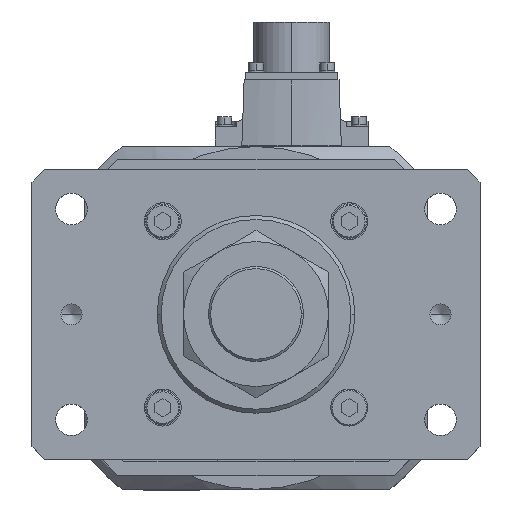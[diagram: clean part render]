
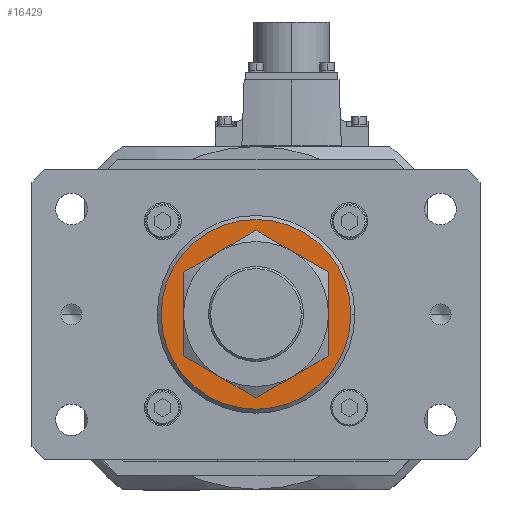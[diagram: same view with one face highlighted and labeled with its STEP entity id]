
A CAD part, top view. The second image highlights one B-rep face of the part: STEP entity #16429.
In plain terms, the highlighted planar face has unit normal (0, 0, 1).
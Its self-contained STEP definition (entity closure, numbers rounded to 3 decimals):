
#882 = DIRECTION ( 'NONE',  ( 1., 0., 0. ) ) ;
#1013 = CIRCLE ( 'NONE', #3275, 23. ) ;
#1128 = FACE_OUTER_BOUND ( 'NONE', #14332, .T. ) ;
#3275 = AXIS2_PLACEMENT_3D ( 'NONE', #36242, #33884, #16411 ) ;
#4531 = CIRCLE ( 'NONE', #17908, 23. ) ;
#5578 = VERTEX_POINT ( 'NONE', #34885 ) ;
#6712 = ORIENTED_EDGE ( 'NONE', *, *, #11363, .T. ) ;
#9233 = EDGE_CURVE ( 'NONE', #32258, #5578, #12549, .T. ) ;
#9693 = EDGE_CURVE ( 'NONE', #13448, #18083, #4531, .T. ) ;
#10617 = CARTESIAN_POINT ( 'NONE',  ( -23., 0., 496. ) ) ;
#11363 = EDGE_CURVE ( 'NONE', #5578, #32258, #28898, .T. ) ;
#11744 = DIRECTION ( 'NONE',  ( 0., 0., 1. ) ) ;
#12160 = CARTESIAN_POINT ( 'NONE',  ( 23., 0., 496. ) ) ;
#12549 = CIRCLE ( 'NONE', #16284, 36. ) ;
#13448 = VERTEX_POINT ( 'NONE', #10617 ) ;
#14332 = EDGE_LOOP ( 'NONE', ( #33335, #6712 ) ) ;
#16284 = AXIS2_PLACEMENT_3D ( 'NONE', #21326, #24201, #35185 ) ;
#16411 = DIRECTION ( 'NONE',  ( 1., 0., 0. ) ) ;
#16429 = ADVANCED_FACE ( 'NONE', ( #17609, #1128 ), #26558, .T. ) ;
#17024 = DIRECTION ( 'NONE',  ( 1., 0., 0. ) ) ;
#17285 = CARTESIAN_POINT ( 'NONE',  ( 0., 0., 496. ) ) ;
#17609 = FACE_BOUND ( 'NONE', #26946, .T. ) ;
#17736 = EDGE_CURVE ( 'NONE', #18083, #13448, #1013, .T. ) ;
#17794 = AXIS2_PLACEMENT_3D ( 'NONE', #29182, #11744, #882 ) ;
#17908 = AXIS2_PLACEMENT_3D ( 'NONE', #17285, #31514, #22630 ) ;
#18083 = VERTEX_POINT ( 'NONE', #12160 ) ;
#20134 = CARTESIAN_POINT ( 'NONE',  ( 0., 0., 496. ) ) ;
#20184 = ORIENTED_EDGE ( 'NONE', *, *, #17736, .T. ) ;
#21318 = ORIENTED_EDGE ( 'NONE', *, *, #9693, .T. ) ;
#21326 = CARTESIAN_POINT ( 'NONE',  ( 0., 0., 496. ) ) ;
#21916 = AXIS2_PLACEMENT_3D ( 'NONE', #20134, #31373, #17024 ) ;
#22630 = DIRECTION ( 'NONE',  ( 1., 0., 0. ) ) ;
#22653 = CARTESIAN_POINT ( 'NONE',  ( -36., 0., 496. ) ) ;
#24201 = DIRECTION ( 'NONE',  ( 0., 0., 1. ) ) ;
#26558 = PLANE ( 'NONE',  #17794 ) ;
#26946 = EDGE_LOOP ( 'NONE', ( #20184, #21318 ) ) ;
#28898 = CIRCLE ( 'NONE', #21916, 36. ) ;
#29182 = CARTESIAN_POINT ( 'NONE',  ( 0., 0., 496. ) ) ;
#31373 = DIRECTION ( 'NONE',  ( 0., 0., 1. ) ) ;
#31514 = DIRECTION ( 'NONE',  ( 0., 0., -1. ) ) ;
#32258 = VERTEX_POINT ( 'NONE', #22653 ) ;
#33335 = ORIENTED_EDGE ( 'NONE', *, *, #9233, .T. ) ;
#33884 = DIRECTION ( 'NONE',  ( 0., 0., -1. ) ) ;
#34885 = CARTESIAN_POINT ( 'NONE',  ( 36., 0., 496. ) ) ;
#35185 = DIRECTION ( 'NONE',  ( 1., 0., 0. ) ) ;
#36242 = CARTESIAN_POINT ( 'NONE',  ( 0., 0., 496. ) ) ;
